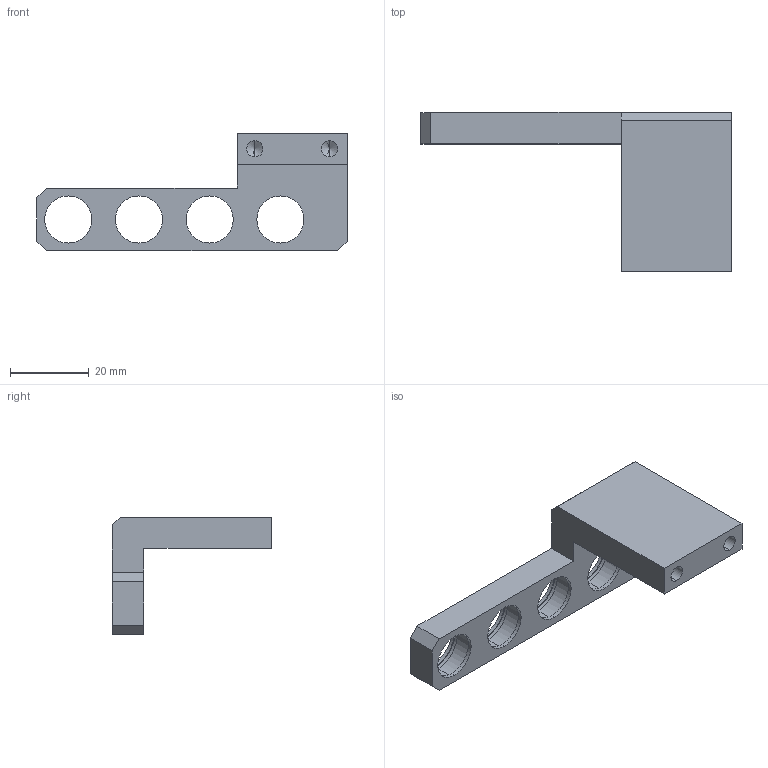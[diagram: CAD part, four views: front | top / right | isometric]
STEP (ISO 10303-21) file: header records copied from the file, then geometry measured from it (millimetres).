
FILE_DESCRIPTION (( 'STEP AP214' ), '1' );
FILE_NAME ('GZ21.25_V1导向主动轮安装板.STEP', '2021-02-28T07:39:06', ( 'hp' ), ( '' ), 'SwSTEP 2.0', 'SolidWorks 2017', '' );
FILE_SCHEMA (( 'AUTOMOTIVE_DESIGN' ));
Length unit declared in the file: millimetre
Products named in the file (1): GZ21.25_V1导向主动轮安装板
Bounding box: 79 x 40.5 x 30 mm (x, y, z)
Volume: 15188.1 mm3; surface area: 8267.1 mm2
Topology: 1 solids, 1 shells, 66 faces, 152 edges, 98 vertices
Faces by surface type: cylinder 36, plane 26, cone 4
Entity records: 1962 total; most frequent: DIRECTION 354, CARTESIAN_POINT 313, ORIENTED_EDGE 296, EDGE_CURVE 148, AXIS2_PLACEMENT_3D 139, VERTEX_POINT 98, EDGE_LOOP 88, LINE 76
